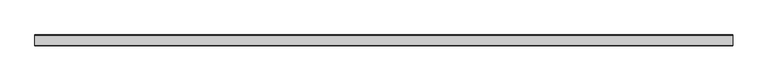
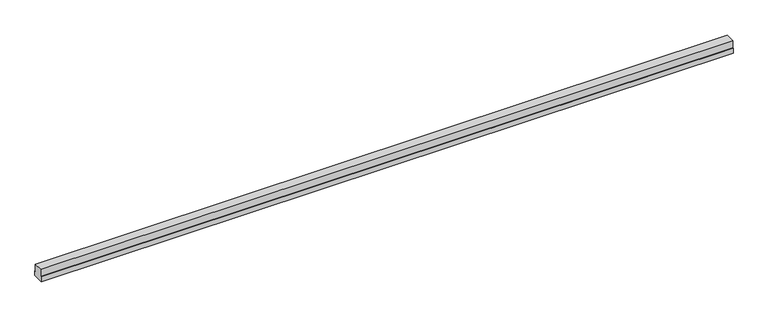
"""IFC4 building model written with IfcOpenShell, lengths in millimetres: proxy geometry, durlum_OMEGA_63 : durlum_OMEGA_63."""

from ifc_helpers import new_model, si_unit, origin, origin_with_axes, place, context, project, spatial, polyline, outline, extrude, faceted_brep, source, transform, mapped, element, save


def generic_models_29f93f66(model_context):
    return source(origin(), model_context, "Body", "SolidModel", [
        extrude(outline(polyline([(1998.75, 30.3), (1998.75, -30.3), (-1998.75, -30.3), (-1998.75, 30.3), (1998.75, 30.3)])), origin_with_axes(), (0.0, 0.0, 1.0), 1.25),
        faceted_brep([(2000.0, 31.55, 29.0), (2000.0, 26.55, 29.0), (2000.0, 26.55, 73.0), (2000.0, -26.55, 73.0), (2000.0, -26.55, 29.0), (2000.0, -31.55, 29.0), (2000.0, -31.55, 0.0), (2000.0, 31.55, 0.0), (-2000.0, 31.55, 29.0), (-2000.0, 31.55, 0.0), (-2000.0, -31.55, 0.0), (-2000.0, -31.55, 29.0), (-2000.0, -26.55, 29.0), (-2000.0, -26.55, 73.0), (-2000.0, 26.55, 73.0), (-2000.0, 26.55, 29.0), (1998.75, 30.3, 0.0), (-1998.75, 30.3, 0.0), (-1998.75, -30.3, 0.0), (1998.75, -30.3, 0.0), (1998.75, 30.3, 5.5310709), (1998.75, -30.3, 5.5310709), (-1998.75, -30.3, 5.5310709), (-1998.75, 30.3, 5.5310709)], [[[0, 1, 2, 3, 4, 5, 6, 7]], [[8, 9, 10, 11, 12, 13, 14, 15]], [[1, 0, 8, 15]], [[2, 1, 15, 14]], [[3, 2, 14, 13]], [[4, 3, 13, 12]], [[5, 4, 12, 11]], [[6, 5, 11, 10]], [[7, 6, 10, 9], [16, 17, 18, 19]], [[0, 7, 9, 8]], [[20, 21, 22, 23]], [[20, 23, 17, 16]], [[23, 22, 18, 17]], [[22, 21, 19, 18]], [[21, 20, 16, 19]]]),
    ])


if __name__ == "__main__":
    model = new_model("IFC4")
    model_context = context("Model", 3, world=origin())
    ifc_project = project(units=[si_unit("LENGTHUNIT", "METRE", prefix="MILLI")], contexts=[model_context])
    site = spatial("IfcSite", under=ifc_project)
    building = spatial("IfcBuilding", under=site)
    placement = place(None, origin())
    generic_models_shape = generic_models_29f93f66(model_context)
    element("IfcBuildingElementProxy", 1, Name="durlum_OMEGA_63 : durlum_OMEGA_63", ObjectType="durlum_OMEGA_63 : durlum_OMEGA_63", at=placement, inside=building, context=model_context, shape_type="MappedRepresentation", body=[
        mapped(generic_models_shape, transform((0.0, 0.0, 0.0), x_axis=(1.0, 0.0, 0.0), y_axis=(0.0, 1.0, 0.0), z_axis=(0.0, 0.0, 1.0))),
    ])
    save(model, "model.ifc")
